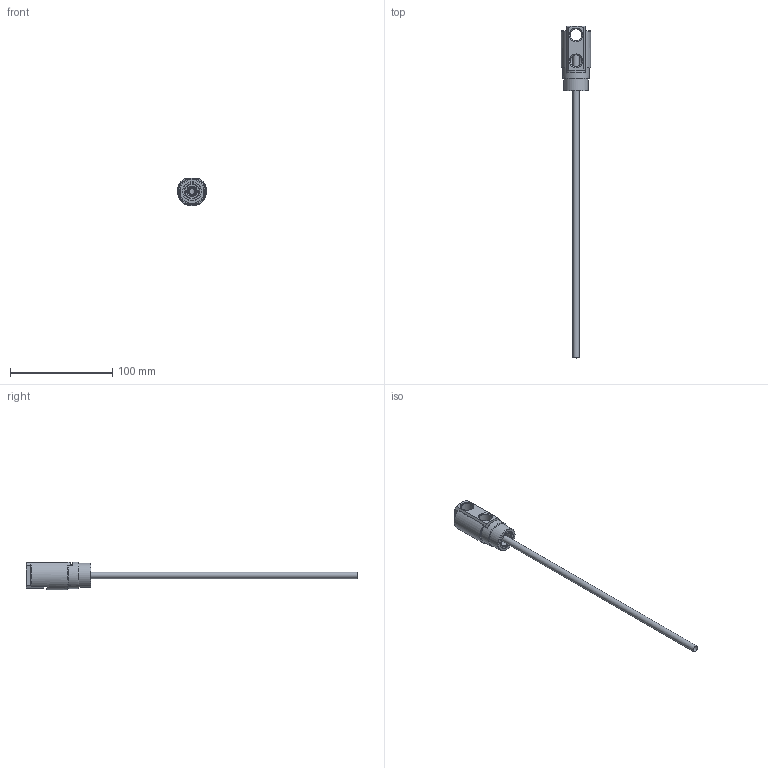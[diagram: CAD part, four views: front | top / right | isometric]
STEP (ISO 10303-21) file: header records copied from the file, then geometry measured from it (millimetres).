
FILE_DESCRIPTION(/* description */ (''),/* implementation_level */ '2;1');
FILE_NAME(/* name */ 'C:/Users/drich/Desktop/SC141N-4.step',/* time_stamp */ '2020-12-14T10:27:24-06:00',/* author */ (''),/* organization */ (''),/* preprocessor_version */ 'ST-DEVELOPER v18.1',/* originating_system */ 'Autodesk Translation Framework v9.7.1.1290',/* authorisation */ '');
FILE_SCHEMA (('AUTOMOTIVE_DESIGN { 1 0 10303 214 3 1 1 }'));
Length unit declared in the file: inch
Products named in the file (5): SC141N-4; SC141H-4 HEAD; SC141H-4 Sleeve; SEAL; HF250T-12
Assembly tree (4 placements, depth 3):
  SC141N-4
    SC141H-4 HEAD
      SC141H-4 Sleeve
      SEAL
    HF250T-12
Bounding box: 28.56 x 325.12 x 27.24 mm (x, y, z)
Volume: 26616.3 mm3; surface area: 28012.4 mm2
Topology: 4 solids, 4 shells, 78 faces, 191 edges, 123 vertices
Faces by surface type: plane 37, cylinder 21, cone 11, torus 9
Full cylindrical faces by diameter (mm): 5.842 x1, 6.35 x1, 6.909 x1, 7.818 x1, 7.976 x1, 10.312 x2, 11.668 x2, 13.589 x1, 13.59 x1, 17.907 x1, 18.034 x1, 21.057 x1, 23.8 x1, 25.908 x1
Entity records: 2613 total; most frequent: CARTESIAN_POINT 620, DIRECTION 410, ORIENTED_EDGE 380, EDGE_CURVE 190, AXIS2_PLACEMENT_3D 165, VERTEX_POINT 123, EDGE_LOOP 93, LINE 80
